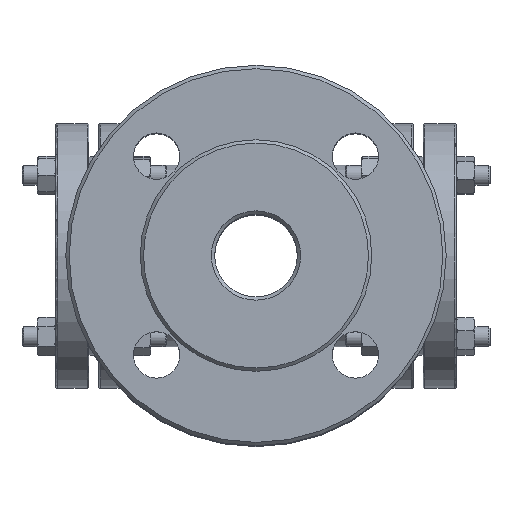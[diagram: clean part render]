
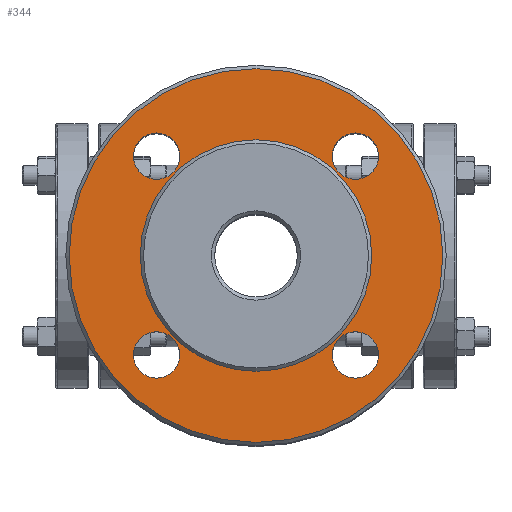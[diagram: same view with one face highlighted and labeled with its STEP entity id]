
A CAD part, top view. The second image highlights one B-rep face of the part: STEP entity #344.
In plain terms, the highlighted planar face has unit normal (0, 0, 1).
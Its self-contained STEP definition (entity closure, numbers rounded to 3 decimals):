
#344=ADVANCED_FACE('',(#2881,#2883,#2885,#2887,#2889,#2891),#2893,.T.);
#2881=FACE_BOUND('',#2882,.T.);
#2882=EDGE_LOOP('',(#8159));
#2883=FACE_BOUND('',#2884,.T.);
#2884=EDGE_LOOP('',(#8160));
#2885=FACE_BOUND('',#2886,.T.);
#2886=EDGE_LOOP('',(#8161));
#2887=FACE_BOUND('',#2888,.T.);
#2888=EDGE_LOOP('',(#8162));
#2889=FACE_BOUND('',#2890,.T.);
#2890=EDGE_LOOP('',(#8163));
#2891=FACE_BOUND('',#2892,.T.);
#2892=EDGE_LOOP('',(#8164));
#2893=PLANE('',#2894);
#2894=AXIS2_PLACEMENT_3D('',#2895,#2896,#2897);
#2895=CARTESIAN_POINT('',(0.,0.,79.));
#2896=DIRECTION('',(0.,0.,1.));
#2897=DIRECTION('',(1.,0.,0.));
#8159=ORIENTED_EDGE('',*,*,#10334,.F.);
#8160=ORIENTED_EDGE('',*,*,#10335,.T.);
#8161=ORIENTED_EDGE('',*,*,#10336,.T.);
#8162=ORIENTED_EDGE('',*,*,#10283,.F.);
#8163=ORIENTED_EDGE('',*,*,#10337,.F.);
#8164=ORIENTED_EDGE('',*,*,#10338,.F.);
#10283=EDGE_CURVE('',#11473,#11473,#11474,.T.);
#10334=EDGE_CURVE('',#11551,#11551,#11552,.T.);
#10335=EDGE_CURVE('',#11553,#11553,#11554,.T.);
#10336=EDGE_CURVE('',#11555,#11555,#11556,.T.);
#10337=EDGE_CURVE('',#11557,#11557,#11558,.T.);
#10338=EDGE_CURVE('',#11559,#11559,#11560,.T.);
#11473=VERTEX_POINT('',#14909);
#11474=CIRCLE('',#14910,35.);
#11551=VERTEX_POINT('',#16108);
#11552=CIRCLE('',#16109,56.5);
#11553=VERTEX_POINT('',#16113);
#11554=CIRCLE('',#16114,7.);
#11555=VERTEX_POINT('',#16118);
#11556=CIRCLE('',#16119,7.);
#11557=VERTEX_POINT('',#16123);
#11558=CIRCLE('',#16124,7.);
#11559=VERTEX_POINT('',#16128);
#11560=CIRCLE('',#16129,7.);
#14909=CARTESIAN_POINT('',(35.,0.,79.));
#14910=AXIS2_PLACEMENT_3D('',#14911,#14912,#14913);
#14911=CARTESIAN_POINT('',(0.,0.,79.));
#14912=DIRECTION('',(0.,0.,1.));
#14913=DIRECTION('',(1.,0.,0.));
#16108=CARTESIAN_POINT('',(56.5,0.,79.));
#16109=AXIS2_PLACEMENT_3D('',#16110,#16111,#16112);
#16110=CARTESIAN_POINT('',(0.,0.,79.));
#16111=DIRECTION('',(0.,0.,-1.));
#16112=DIRECTION('',(1.,0.,0.));
#16113=CARTESIAN_POINT('',(37.052,-30.052,79.));
#16114=AXIS2_PLACEMENT_3D('',#16115,#16116,#16117);
#16115=CARTESIAN_POINT('',(30.052,-30.052,79.));
#16116=DIRECTION('',(0.,0.,-1.));
#16117=DIRECTION('',(1.,0.,0.));
#16118=CARTESIAN_POINT('',(37.052,30.052,79.));
#16119=AXIS2_PLACEMENT_3D('',#16120,#16121,#16122);
#16120=CARTESIAN_POINT('',(30.052,30.052,79.));
#16121=DIRECTION('',(0.,0.,-1.));
#16122=DIRECTION('',(1.,0.,0.));
#16123=CARTESIAN_POINT('',(-37.052,-30.052,79.));
#16124=AXIS2_PLACEMENT_3D('',#16125,#16126,#16127);
#16125=CARTESIAN_POINT('',(-30.052,-30.052,79.));
#16126=DIRECTION('',(0.,0.,1.));
#16127=DIRECTION('',(-1.,0.,0.));
#16128=CARTESIAN_POINT('',(-37.052,30.052,79.));
#16129=AXIS2_PLACEMENT_3D('',#16130,#16131,#16132);
#16130=CARTESIAN_POINT('',(-30.052,30.052,79.));
#16131=DIRECTION('',(0.,0.,1.));
#16132=DIRECTION('',(-1.,0.,0.));
